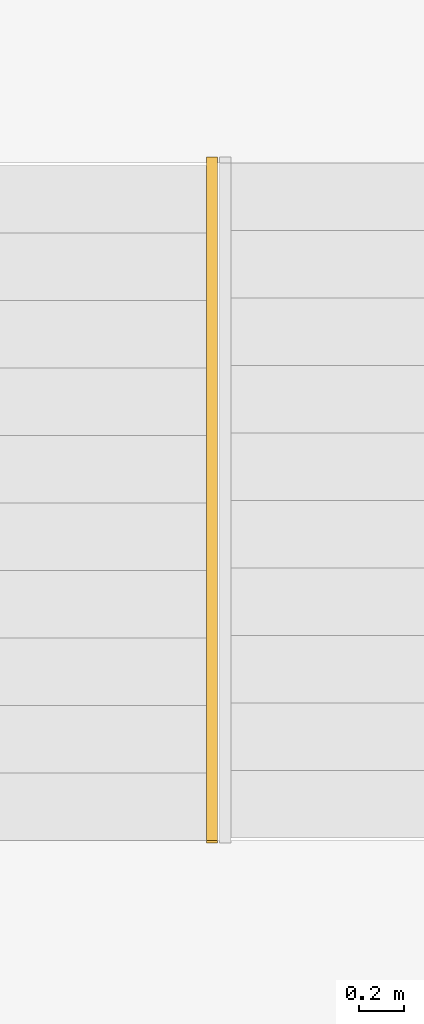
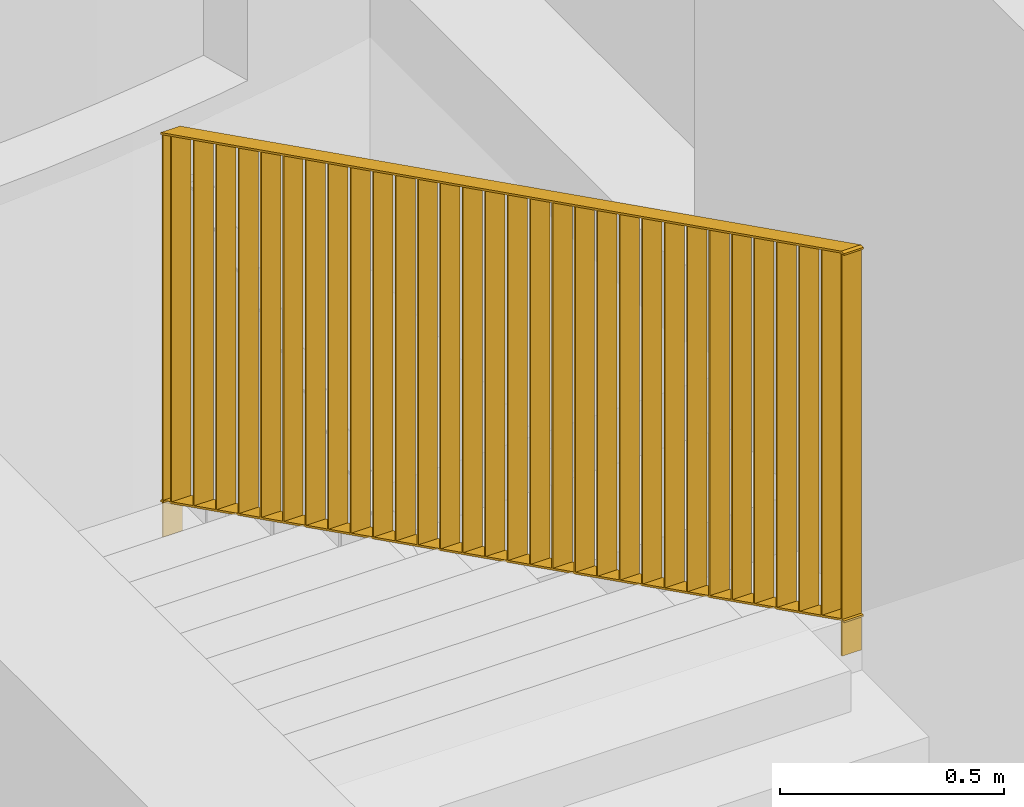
# One storey, part 21 of 48: 1 railing, 1 element without a shape of its own.
"""IFC2X3 building model written with IfcOpenShell, lengths in millimetres."""

from ifc_helpers import new_model, entity, si_unit, converted_unit, derived_unit, direction, frame, origin, place, context, subcontext, project, spatial, faceted_brep, material, element, aggregate, save


model = new_model("IFC2X3")

# Units and contexts
model_context = context("Model", 3, precision=0.01, world=origin(), true_north=direction((6.12303176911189e-17, 1.0)))
body_context = subcontext(model_context, "Body", "Model", "MODEL_VIEW")
ifc_project = project(units=[si_unit("LENGTHUNIT", "METRE", prefix="MILLI"), si_unit("AREAUNIT", "SQUARE_METRE"), si_unit("VOLUMEUNIT", "CUBIC_METRE"), converted_unit("PLANEANGLEUNIT", "DEGREE", entity("IfcRatioMeasure", 0.0174532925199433), si_unit("PLANEANGLEUNIT", "RADIAN"), dimensions=[0, 0, 0, 0, 0, 0, 0]), si_unit("MASSUNIT", "GRAM", prefix="KILO"), derived_unit("MASSDENSITYUNIT", [(si_unit("MASSUNIT", "GRAM", prefix="KILO"), 1), (si_unit("LENGTHUNIT", "METRE"), -3)]), si_unit("TIMEUNIT", "SECOND"), si_unit("FREQUENCYUNIT", "HERTZ"), si_unit("THERMODYNAMICTEMPERATUREUNIT", "DEGREE_CELSIUS"), derived_unit("THERMALTRANSMITTANCEUNIT", [(si_unit("MASSUNIT", "GRAM", prefix="KILO"), 1), (si_unit("THERMODYNAMICTEMPERATUREUNIT", "KELVIN"), -1), (si_unit("TIMEUNIT", "SECOND"), -3)]), derived_unit("VOLUMETRICFLOWRATEUNIT", [(si_unit("LENGTHUNIT", "METRE"), 3), (si_unit("TIMEUNIT", "SECOND"), -1)]), si_unit("ELECTRICCURRENTUNIT", "AMPERE"), si_unit("ELECTRICVOLTAGEUNIT", "VOLT"), si_unit("POWERUNIT", "WATT"), si_unit("FORCEUNIT", "NEWTON", prefix="KILO"), si_unit("ILLUMINANCEUNIT", "LUX"), si_unit("LUMINOUSFLUXUNIT", "LUMEN"), si_unit("LUMINOUSINTENSITYUNIT", "CANDELA"), derived_unit("USERDEFINED", [(si_unit("MASSUNIT", "GRAM", prefix="KILO"), -1), (si_unit("LENGTHUNIT", "METRE"), -2), (si_unit("TIMEUNIT", "SECOND"), 3), (si_unit("LUMINOUSFLUXUNIT", "LUMEN"), 1)]), derived_unit("LINEARVELOCITYUNIT", [(si_unit("LENGTHUNIT", "METRE"), 1), (si_unit("TIMEUNIT", "SECOND"), -1)]), si_unit("PRESSUREUNIT", "PASCAL"), derived_unit("USERDEFINED", [(si_unit("LENGTHUNIT", "METRE"), -2), (si_unit("MASSUNIT", "GRAM", prefix="KILO"), 1), (si_unit("TIMEUNIT", "SECOND"), -2)]), derived_unit("LINEARFORCEUNIT", [(si_unit("MASSUNIT", "GRAM", prefix="KILO"), 1), (si_unit("LENGTHUNIT", "METRE"), 1), (si_unit("TIMEUNIT", "SECOND"), -2), (si_unit("LENGTHUNIT", "METRE"), -1)]), derived_unit("PLANARFORCEUNIT", [(si_unit("MASSUNIT", "GRAM", prefix="KILO"), 1), (si_unit("LENGTHUNIT", "METRE"), 1), (si_unit("TIMEUNIT", "SECOND"), -2), (si_unit("LENGTHUNIT", "METRE"), -2)])], contexts=[model_context])

# Site, building, storey
site_placement = place(None, origin())
site = spatial("IfcSite", under=ifc_project, at=site_placement, Name="Default", CompositionType="ELEMENT")
building_placement = place(site_placement, origin())
building = spatial("IfcBuilding", under=site, at=building_placement, Name="SMA ARH", CompositionType="ELEMENT")
storey_placement = place(building_placement, frame((0.0, 0.0, 3300.0)))
storey = spatial("IfcBuildingStorey", under=building, at=storey_placement, Name="2 Korrus", CompositionType="ELEMENT", Elevation=3299.99999999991)

# Stair, railing
stair_placement = place(storey_placement, origin())
stair = element("IfcStair", 1, at=stair_placement, inside=storey, Name="Cast-In-Place Stair:Stair", ObjectType="Cast-In-Place Stair:Cast-In-Place Stair", ShapeType="STRAIGHT_RUN_STAIR")
ifc_material = material(Name="Metal - Stainless Steel,Polished")
railing_placement = place(stair_placement, frame((10155.0, 9776.29403501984, 1615.72072307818)))
railing = element("IfcRailing", 2, at=railing_placement, material=ifc_material, Name="Railing:1000mm_sisearh railing offsetiga", ObjectType="Railing:1000mm_sisearh railing offsetiga", PredefinedType="NOTDEFINED", context=body_context, shape_type="Brep", body=[
    faceted_brep([(0.0, 3002.50000000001, 118.785121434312), (0.0, 2997.50000000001, 121.285121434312), (0.0, 2997.50000000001, 1115.69495149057), (0.0, 3002.50000000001, 1113.19495149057), (50.0, 3002.50000000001, 118.785121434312), (50.0, 3002.50000000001, 1113.19495149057), (50.0, 2997.50000000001, 1115.69495149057), (50.0, 2997.50000000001, 121.285121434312)], [[[0, 1, 2, 3]], [[4, 5, 6, 7]], [[1, 0, 4, 7]], [[2, 1, 7, 6]], [[3, 2, 6, 5]], [[0, 3, 5, 4]]]),
    faceted_brep([(0.0, 2902.50000000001, 168.78512143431), (0.0, 2897.50000000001, 171.285121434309), (0.0, 2897.50000000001, 1165.69495149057), (0.0, 2902.50000000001, 1163.19495149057), (50.0, 2902.50000000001, 168.78512143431), (50.0, 2902.50000000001, 1163.19495149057), (50.0, 2897.50000000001, 1165.69495149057), (50.0, 2897.50000000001, 171.285121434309)], [[[0, 1, 2, 3]], [[4, 5, 6, 7]], [[1, 0, 4, 7]], [[2, 1, 7, 6]], [[3, 2, 6, 5]], [[0, 3, 5, 4]]]),
    faceted_brep([(0.0, 2802.50000000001, 218.785121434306), (0.0, 2797.50000000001, 221.285121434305), (0.0, 2797.50000000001, 1215.69495149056), (0.0, 2802.50000000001, 1213.19495149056), (50.0, 2802.50000000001, 218.785121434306), (50.0, 2802.50000000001, 1213.19495149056), (50.0, 2797.50000000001, 1215.69495149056), (50.0, 2797.50000000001, 221.285121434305)], [[[0, 1, 2, 3]], [[4, 5, 6, 7]], [[1, 0, 4, 7]], [[2, 1, 7, 6]], [[3, 2, 6, 5]], [[0, 3, 5, 4]]]),
    faceted_brep([(0.0, 2702.50000000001, 268.785121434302), (0.0, 2697.50000000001, 271.285121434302), (0.0, 2697.50000000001, 1265.69495149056), (0.0, 2702.50000000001, 1263.19495149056), (50.0, 2702.50000000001, 268.785121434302), (50.0, 2702.50000000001, 1263.19495149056), (50.0, 2697.50000000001, 1265.69495149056), (50.0, 2697.50000000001, 271.285121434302)], [[[0, 1, 2, 3]], [[4, 5, 6, 7]], [[1, 0, 4, 7]], [[2, 1, 7, 6]], [[3, 2, 6, 5]], [[0, 3, 5, 4]]]),
    faceted_brep([(0.0, 2602.50000000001, 318.785121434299), (0.0, 2597.50000000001, 321.285121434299), (0.0, 2597.50000000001, 1315.69495149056), (0.0, 2602.50000000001, 1313.19495149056), (50.0, 2602.50000000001, 318.785121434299), (50.0, 2602.50000000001, 1313.19495149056), (50.0, 2597.50000000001, 1315.69495149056), (50.0, 2597.50000000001, 321.285121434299)], [[[0, 1, 2, 3]], [[4, 5, 6, 7]], [[1, 0, 4, 7]], [[2, 1, 7, 6]], [[3, 2, 6, 5]], [[0, 3, 5, 4]]]),
    faceted_brep([(0.0, 2502.50000000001, 368.785121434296), (0.0, 2497.50000000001, 371.285121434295), (0.0, 2497.50000000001, 1365.69495149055), (0.0, 2502.50000000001, 1363.19495149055), (50.0, 2502.50000000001, 368.785121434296), (50.0, 2502.50000000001, 1363.19495149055), (50.0, 2497.50000000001, 1365.69495149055), (50.0, 2497.50000000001, 371.285121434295)], [[[0, 1, 2, 3]], [[4, 5, 6, 7]], [[1, 0, 4, 7]], [[2, 1, 7, 6]], [[3, 2, 6, 5]], [[0, 3, 5, 4]]]),
    faceted_brep([(0.0, 2402.50000000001, 418.785121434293), (0.0, 2397.50000000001, 421.285121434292), (0.0, 2397.50000000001, 1415.69495149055), (0.0, 2402.50000000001, 1413.19495149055), (50.0, 2402.50000000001, 418.785121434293), (50.0, 2402.50000000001, 1413.19495149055), (50.0, 2397.50000000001, 1415.69495149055), (50.0, 2397.50000000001, 421.285121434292)], [[[0, 1, 2, 3]], [[4, 5, 6, 7]], [[1, 0, 4, 7]], [[2, 1, 7, 6]], [[3, 2, 6, 5]], [[0, 3, 5, 4]]]),
    faceted_brep([(0.0, 2302.50000000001, 468.785121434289), (0.0, 2297.50000000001, 471.285121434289), (0.0, 2297.50000000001, 1465.69495149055), (0.0, 2302.50000000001, 1463.19495149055), (50.0, 2302.50000000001, 468.785121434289), (50.0, 2302.50000000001, 1463.19495149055), (50.0, 2297.50000000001, 1465.69495149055), (50.0, 2297.50000000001, 471.285121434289)], [[[0, 1, 2, 3]], [[4, 5, 6, 7]], [[1, 0, 4, 7]], [[2, 1, 7, 6]], [[3, 2, 6, 5]], [[0, 3, 5, 4]]]),
    faceted_brep([(0.0, 2202.50000000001, 518.785121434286), (0.0, 2197.50000000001, 521.285121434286), (0.0, 2197.50000000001, 1515.69495149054), (0.0, 2202.50000000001, 1513.19495149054), (50.0, 2202.50000000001, 518.785121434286), (50.0, 2202.50000000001, 1513.19495149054), (50.0, 2197.50000000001, 1515.69495149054), (50.0, 2197.50000000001, 521.285121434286)], [[[0, 1, 2, 3]], [[4, 5, 6, 7]], [[1, 0, 4, 7]], [[2, 1, 7, 6]], [[3, 2, 6, 5]], [[0, 3, 5, 4]]]),
    faceted_brep([(0.0, 2102.50000000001, 568.785121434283), (0.0, 2097.50000000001, 571.285121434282), (0.0, 2097.50000000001, 1565.69495149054), (0.0, 2102.50000000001, 1563.19495149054), (50.0, 2102.50000000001, 568.785121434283), (50.0, 2102.50000000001, 1563.19495149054), (50.0, 2097.50000000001, 1565.69495149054), (50.0, 2097.50000000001, 571.285121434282)], [[[0, 1, 2, 3]], [[4, 5, 6, 7]], [[1, 0, 4, 7]], [[2, 1, 7, 6]], [[3, 2, 6, 5]], [[0, 3, 5, 4]]]),
    faceted_brep([(0.0, 2002.50000000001, 618.78512143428), (0.0, 1997.50000000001, 621.285121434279), (0.0, 1997.50000000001, 1615.69495149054), (0.0, 2002.50000000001, 1613.19495149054), (50.0, 2002.50000000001, 618.78512143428), (50.0, 2002.50000000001, 1613.19495149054), (50.0, 1997.50000000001, 1615.69495149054), (50.0, 1997.50000000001, 621.285121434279)], [[[0, 1, 2, 3]], [[4, 5, 6, 7]], [[1, 0, 4, 7]], [[2, 1, 7, 6]], [[3, 2, 6, 5]], [[0, 3, 5, 4]]]),
    faceted_brep([(0.0, 1902.50000000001, 668.785121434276), (0.0, 1897.50000000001, 671.285121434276), (0.0, 1897.50000000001, 1665.69495149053), (0.0, 1902.50000000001, 1663.19495149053), (50.0, 1902.50000000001, 668.785121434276), (50.0, 1902.50000000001, 1663.19495149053), (50.0, 1897.50000000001, 1665.69495149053), (50.0, 1897.50000000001, 671.285121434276)], [[[0, 1, 2, 3]], [[4, 5, 6, 7]], [[1, 0, 4, 7]], [[2, 1, 7, 6]], [[3, 2, 6, 5]], [[0, 3, 5, 4]]]),
    faceted_brep([(0.0, 1802.50000000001, 718.785121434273), (0.0, 1797.50000000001, 721.285121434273), (0.0, 1797.50000000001, 1715.69495149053), (0.0, 1802.50000000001, 1713.19495149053), (50.0, 1802.50000000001, 718.785121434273), (50.0, 1802.50000000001, 1713.19495149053), (50.0, 1797.50000000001, 1715.69495149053), (50.0, 1797.50000000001, 721.285121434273)], [[[0, 1, 2, 3]], [[4, 5, 6, 7]], [[1, 0, 4, 7]], [[2, 1, 7, 6]], [[3, 2, 6, 5]], [[0, 3, 5, 4]]]),
    faceted_brep([(0.0, 1702.50000000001, 768.78512143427), (0.0, 1697.50000000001, 771.285121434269), (0.0, 1697.50000000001, 1765.69495149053), (0.0, 1702.50000000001, 1763.19495149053), (50.0, 1702.50000000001, 768.78512143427), (50.0, 1702.50000000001, 1763.19495149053), (50.0, 1697.50000000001, 1765.69495149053), (50.0, 1697.50000000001, 771.285121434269)], [[[0, 1, 2, 3]], [[4, 5, 6, 7]], [[1, 0, 4, 7]], [[2, 1, 7, 6]], [[3, 2, 6, 5]], [[0, 3, 5, 4]]]),
    faceted_brep([(0.0, 1602.50000000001, 818.785121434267), (0.0, 1597.50000000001, 821.285121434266), (0.0, 1597.50000000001, 1815.69495149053), (0.0, 1602.50000000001, 1813.19495149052), (50.0, 1602.50000000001, 818.785121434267), (50.0, 1602.50000000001, 1813.19495149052), (50.0, 1597.50000000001, 1815.69495149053), (50.0, 1597.50000000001, 821.285121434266)], [[[0, 1, 2, 3]], [[4, 5, 6, 7]], [[1, 0, 4, 7]], [[2, 1, 7, 6]], [[3, 2, 6, 5]], [[0, 3, 5, 4]]]),
    faceted_brep([(0.0, 1502.50000000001, 868.785121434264), (0.0, 1497.50000000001, 871.285121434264), (0.0, 1497.50000000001, 1865.69495149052), (0.0, 1502.50000000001, 1863.19495149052), (50.0, 1502.50000000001, 868.785121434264), (50.0, 1502.50000000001, 1863.19495149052), (50.0, 1497.50000000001, 1865.69495149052), (50.0, 1497.50000000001, 871.285121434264)], [[[0, 1, 2, 3]], [[4, 5, 6, 7]], [[1, 0, 4, 7]], [[2, 1, 7, 6]], [[3, 2, 6, 5]], [[0, 3, 5, 4]]]),
    faceted_brep([(0.0, 1402.50000000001, 918.785121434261), (0.0, 1397.50000000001, 921.28512143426), (0.0, 1397.50000000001, 1915.69495149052), (0.0, 1402.50000000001, 1913.19495149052), (50.0, 1402.50000000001, 918.785121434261), (50.0, 1402.50000000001, 1913.19495149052), (50.0, 1397.50000000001, 1915.69495149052), (50.0, 1397.50000000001, 921.28512143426)], [[[0, 1, 2, 3]], [[4, 5, 6, 7]], [[1, 0, 4, 7]], [[2, 1, 7, 6]], [[3, 2, 6, 5]], [[0, 3, 5, 4]]]),
    faceted_brep([(0.0, 1302.50000000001, 968.785121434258), (0.0, 1297.50000000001, 971.285121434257), (0.0, 1297.50000000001, 1965.69495149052), (0.0, 1302.50000000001, 1963.19495149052), (50.0, 1302.50000000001, 968.785121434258), (50.0, 1302.50000000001, 1963.19495149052), (50.0, 1297.50000000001, 1965.69495149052), (50.0, 1297.50000000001, 971.285121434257)], [[[0, 1, 2, 3]], [[4, 5, 6, 7]], [[1, 0, 4, 7]], [[2, 1, 7, 6]], [[3, 2, 6, 5]], [[0, 3, 5, 4]]]),
    faceted_brep([(0.0, 1202.50000000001, 1018.78512143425), (0.0, 1197.50000000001, 1021.28512143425), (0.0, 1197.50000000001, 2015.69495149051), (0.0, 1202.50000000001, 2013.19495149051), (50.0, 1202.50000000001, 1018.78512143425), (50.0, 1202.50000000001, 2013.19495149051), (50.0, 1197.50000000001, 2015.69495149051), (50.0, 1197.50000000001, 1021.28512143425)], [[[0, 1, 2, 3]], [[4, 5, 6, 7]], [[1, 0, 4, 7]], [[2, 1, 7, 6]], [[3, 2, 6, 5]], [[0, 3, 5, 4]]]),
    faceted_brep([(0.0, 1102.50000000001, 1068.78512143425), (0.0, 1097.50000000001, 1071.28512143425), (0.0, 1097.50000000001, 2065.69495149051), (0.0, 1102.50000000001, 2063.19495149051), (50.0, 1102.50000000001, 1068.78512143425), (50.0, 1102.50000000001, 2063.19495149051), (50.0, 1097.50000000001, 2065.69495149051), (50.0, 1097.50000000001, 1071.28512143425)], [[[0, 1, 2, 3]], [[4, 5, 6, 7]], [[1, 0, 4, 7]], [[2, 1, 7, 6]], [[3, 2, 6, 5]], [[0, 3, 5, 4]]]),
    faceted_brep([(0.0, 1002.50000000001, 1118.78512143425), (0.0, 997.500000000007, 1121.28512143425), (0.0, 997.500000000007, 2115.69495149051), (0.0, 1002.50000000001, 2113.19495149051), (50.0, 1002.50000000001, 1118.78512143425), (50.0, 1002.50000000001, 2113.19495149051), (50.0, 997.500000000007, 2115.69495149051), (50.0, 997.500000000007, 1121.28512143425)], [[[0, 1, 2, 3]], [[4, 5, 6, 7]], [[1, 0, 4, 7]], [[2, 1, 7, 6]], [[3, 2, 6, 5]], [[0, 3, 5, 4]]]),
    faceted_brep([(0.0, 902.500000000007, 1168.78512143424), (0.0, 897.500000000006, 1171.28512143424), (0.0, 897.500000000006, 2165.6949514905), (0.0, 902.500000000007, 2163.1949514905), (50.0, 902.500000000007, 1168.78512143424), (50.0, 902.500000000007, 2163.1949514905), (50.0, 897.500000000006, 2165.6949514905), (50.0, 897.500000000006, 1171.28512143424)], [[[0, 1, 2, 3]], [[4, 5, 6, 7]], [[1, 0, 4, 7]], [[2, 1, 7, 6]], [[3, 2, 6, 5]], [[0, 3, 5, 4]]]),
    faceted_brep([(0.0, 802.500000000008, 1218.78512143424), (0.0, 797.500000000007, 1221.28512143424), (0.0, 797.500000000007, 2215.6949514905), (0.0, 802.500000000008, 2213.1949514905), (50.0, 802.500000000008, 1218.78512143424), (50.0, 802.500000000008, 2213.1949514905), (50.0, 797.500000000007, 2215.6949514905), (50.0, 797.500000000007, 1221.28512143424)], [[[0, 1, 2, 3]], [[4, 5, 6, 7]], [[1, 0, 4, 7]], [[2, 1, 7, 6]], [[3, 2, 6, 5]], [[0, 3, 5, 4]]]),
    faceted_brep([(0.0, 702.500000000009, 1268.78512143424), (0.0, 697.500000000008, 1271.28512143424), (0.0, 697.500000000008, 2265.69495149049), (0.0, 702.500000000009, 2263.19495149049), (50.0, 702.500000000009, 1268.78512143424), (50.0, 702.500000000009, 2263.19495149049), (50.0, 697.500000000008, 2265.69495149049), (50.0, 697.500000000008, 1271.28512143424)], [[[0, 1, 2, 3]], [[4, 5, 6, 7]], [[1, 0, 4, 7]], [[2, 1, 7, 6]], [[3, 2, 6, 5]], [[0, 3, 5, 4]]]),
    faceted_brep([(0.0, 602.500000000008, 1318.78512143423), (0.0, 597.500000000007, 1321.28512143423), (0.0, 597.500000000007, 2315.69495149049), (0.0, 602.500000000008, 2313.19495149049), (50.0, 602.500000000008, 1318.78512143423), (50.0, 602.500000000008, 2313.19495149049), (50.0, 597.500000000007, 2315.69495149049), (50.0, 597.500000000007, 1321.28512143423)], [[[0, 1, 2, 3]], [[4, 5, 6, 7]], [[1, 0, 4, 7]], [[2, 1, 7, 6]], [[3, 2, 6, 5]], [[0, 3, 5, 4]]]),
    faceted_brep([(0.0, 502.500000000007, 1368.78512143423), (0.0, 497.500000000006, 1371.28512143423), (0.0, 497.500000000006, 2365.69495149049), (0.0, 502.500000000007, 2363.19495149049), (50.0, 502.500000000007, 1368.78512143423), (50.0, 502.500000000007, 2363.19495149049), (50.0, 497.500000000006, 2365.69495149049), (50.0, 497.500000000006, 1371.28512143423)], [[[0, 1, 2, 3]], [[4, 5, 6, 7]], [[1, 0, 4, 7]], [[2, 1, 7, 6]], [[3, 2, 6, 5]], [[0, 3, 5, 4]]]),
    faceted_brep([(0.0, 402.500000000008, 1418.78512143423), (0.0, 397.500000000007, 1421.28512143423), (0.0, 397.500000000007, 2415.69495149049), (0.0, 402.500000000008, 2413.19495149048), (50.0, 402.500000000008, 1418.78512143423), (50.0, 402.500000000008, 2413.19495149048), (50.0, 397.500000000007, 2415.69495149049), (50.0, 397.500000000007, 1421.28512143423)], [[[0, 1, 2, 3]], [[4, 5, 6, 7]], [[1, 0, 4, 7]], [[2, 1, 7, 6]], [[3, 2, 6, 5]], [[0, 3, 5, 4]]]),
    faceted_brep([(0.0, 302.500000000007, 1468.78512143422), (0.0, 297.500000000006, 1471.28512143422), (0.0, 297.500000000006, 2465.69495149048), (0.0, 302.500000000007, 2463.19495149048), (50.0, 302.500000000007, 1468.78512143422), (50.0, 302.500000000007, 2463.19495149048), (50.0, 297.500000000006, 2465.69495149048), (50.0, 297.500000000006, 1471.28512143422)], [[[0, 1, 2, 3]], [[4, 5, 6, 7]], [[1, 0, 4, 7]], [[2, 1, 7, 6]], [[3, 2, 6, 5]], [[0, 3, 5, 4]]]),
    faceted_brep([(0.0, 202.500000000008, 1518.78512143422), (0.0, 197.500000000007, 1521.28512143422), (0.0, 197.500000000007, 2515.69495149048), (0.0, 202.500000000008, 2513.19495149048), (50.0, 202.500000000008, 1518.78512143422), (50.0, 202.500000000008, 2513.19495149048), (50.0, 197.500000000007, 2515.69495149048), (50.0, 197.500000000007, 1521.28512143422)], [[[0, 1, 2, 3]], [[4, 5, 6, 7]], [[1, 0, 4, 7]], [[2, 1, 7, 6]], [[3, 2, 6, 5]], [[0, 3, 5, 4]]]),
    faceted_brep([(0.0, 102.500000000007, 1568.78512143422), (0.0, 97.500000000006, 1571.28512143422), (0.0, 97.500000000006, 2565.69495149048), (0.0, 102.500000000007, 2563.19495149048), (50.0, 102.500000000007, 1568.78512143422), (50.0, 102.500000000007, 2563.19495149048), (50.0, 97.500000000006, 2565.69495149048), (50.0, 97.500000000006, 1571.28512143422)], [[[0, 1, 2, 3]], [[4, 5, 6, 7]], [[1, 0, 4, 7]], [[2, 1, 7, 6]], [[3, 2, 6, 5]], [[0, 3, 5, 4]]]),
    faceted_brep([(0.0, 3040.07024286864, 0.0), (0.0, 3035.07024286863, 2.50000000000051), (0.0, 3035.07024286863, 1096.90983005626), (0.0, 3040.07024286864, 1094.40983005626), (50.0, 3040.07024286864, 0.0), (50.0, 3040.07024286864, 1094.40983005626), (50.0, 3035.07024286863, 1096.90983005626), (50.0, 3035.07024286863, 2.50000000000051)], [[[0, 1, 2, 3]], [[4, 5, 6, 7]], [[1, 0, 4, 7]], [[2, 1, 7, 6]], [[3, 2, 6, 5]], [[0, 3, 5, 4]]]),
    faceted_brep([(0.0, 12.500000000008, 1514.27927692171), (0.0, 7.50000000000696, 1514.27927692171), (0.0, 7.50000000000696, 2609.27927692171), (0.0, 12.500000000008, 2609.27927692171), (50.0, 12.500000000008, 1514.27927692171), (50.0, 12.500000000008, 2609.27927692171), (50.0, 7.50000000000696, 2609.27927692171), (50.0, 7.50000000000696, 1514.27927692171)], [[[0, 1, 2, 3]], [[4, 5, 6, 7]], [[1, 0, 4, 7]], [[2, 1, 7, 6]], [[3, 2, 6, 5]], [[0, 3, 5, 4]]]),
    faceted_brep([(0.440169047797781, 0.0, 1614.27927692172), (0.440169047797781, 0.0, 1609.27927692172), (50.4401690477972, 0.0, 1609.27927692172), (50.4401690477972, 0.0, 1614.27927692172), (0.440169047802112, 3047.57024286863, 96.2499999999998), (50.4401690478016, 3047.57024286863, 96.2499999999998), (50.4401690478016, 3047.57024286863, 90.6598300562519), (0.440169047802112, 3047.57024286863, 90.6598300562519), (0.440169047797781, 11.5116890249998, 1614.27927692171), (0.440169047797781, 10.3313491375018, 1609.27927692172), (50.4401690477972, 10.3313491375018, 1609.27927692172), (50.4401690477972, 11.5116890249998, 1614.27927692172)], [[[0, 1, 2, 3]], [[4, 5, 6, 7]], [[1, 0, 8, 9]], [[2, 1, 9, 10]], [[3, 2, 10, 11]], [[0, 3, 11, 8]], [[9, 8, 4, 7]], [[10, 9, 7, 6]], [[11, 10, 6, 5]], [[8, 11, 5, 4]]]),
    faceted_brep([(0.440169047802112, 3047.57024286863, 1096.25), (50.4401690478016, 3047.57024286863, 1096.25), (50.4401690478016, 3047.57024286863, 1090.65983005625), (0.440169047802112, 3047.57024286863, 1090.65983005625), (0.440169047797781, 11.5116890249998, 2614.27927692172), (50.4401690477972, 11.5116890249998, 2614.27927692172), (50.4401690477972, 10.3313491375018, 2609.27927692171), (0.440169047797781, 10.3313491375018, 2609.27927692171), (0.440169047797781, 0.0, 2614.27927692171), (0.440169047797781, 0.0, 2609.27927692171), (50.4401690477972, 0.0, 2609.27927692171), (50.4401690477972, 0.0, 2614.27927692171)], [[[0, 1, 2, 3]], [[1, 0, 4, 5]], [[2, 1, 5, 6]], [[3, 2, 6, 7]], [[0, 3, 7, 4]], [[8, 9, 10, 11]], [[5, 4, 8, 11]], [[6, 5, 11, 10]], [[7, 6, 10, 9]], [[4, 7, 9, 8]]]),
])
aggregate(stair, [railing])

save(model, "model.ifc")
